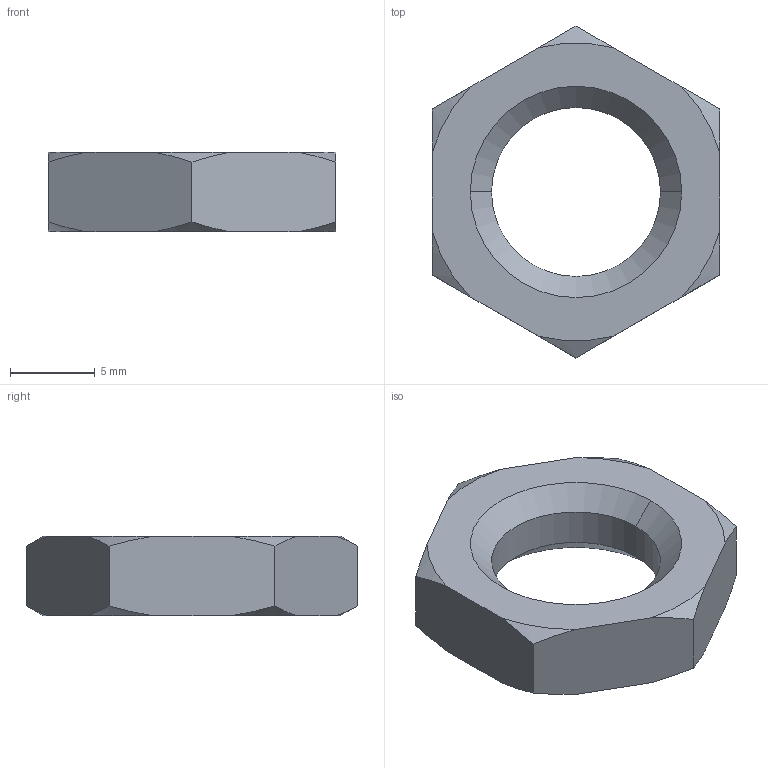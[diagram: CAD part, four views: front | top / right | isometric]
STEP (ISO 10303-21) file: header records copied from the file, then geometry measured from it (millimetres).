
FILE_DESCRIPTION (( 'STEP AP203' ), '1' );
FILE_NAME ('Default.step', '2018-12-15T14:53:02', ( '' ), ( '' ), 'SwSTEP 2.0', 'SolidWorks 2017', '' );
FILE_SCHEMA (( 'CONFIG_CONTROL_DESIGN' ));
Length unit declared in the file: millimetre
Products named in the file (1): Default
Bounding box: 17 x 19.63 x 4.7 mm (x, y, z)
Volume: 749.6 mm3; surface area: 713.7 mm2
Topology: 1 solids, 1 shells, 26 faces, 68 edges, 44 vertices
Faces by surface type: cone 16, plane 8, cylinder 2
Entity records: 937 total; most frequent: CARTESIAN_POINT 243, ORIENTED_EDGE 136, DIRECTION 118, EDGE_CURVE 68, AXIS2_PLACEMENT_3D 47, VERTEX_POINT 44, EDGE_LOOP 28, ADVANCED_FACE 26
